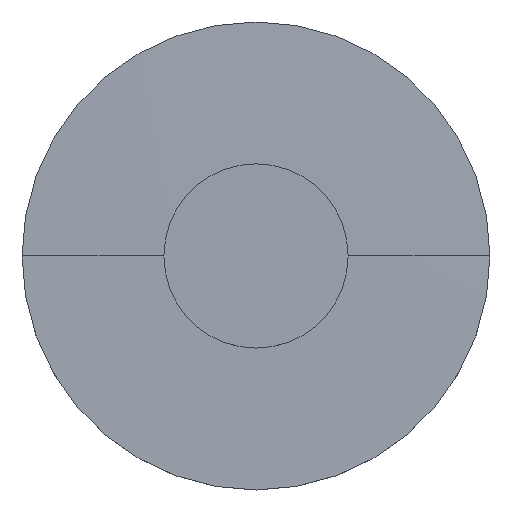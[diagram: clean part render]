
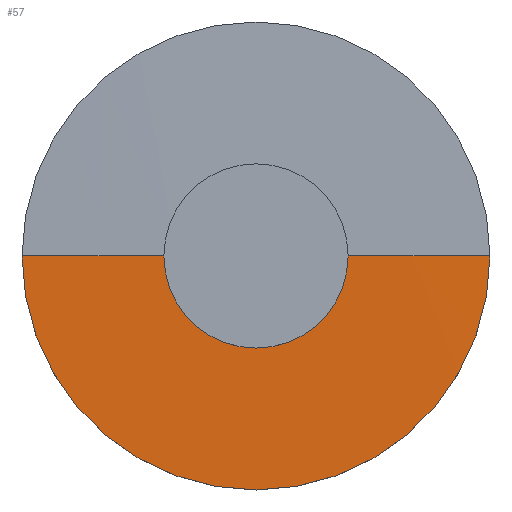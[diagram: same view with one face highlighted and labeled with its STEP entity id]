
A CAD part, top view. The second image highlights one B-rep face of the part: STEP entity #57.
In plain terms, the highlighted spherical face has radius 2000 mm.
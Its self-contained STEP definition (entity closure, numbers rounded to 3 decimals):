
#57=ADVANCED_FACE('',(#71),#72,.T.);
#71=FACE_OUTER_BOUND('',#91,.T.);
#72=SPHERICAL_SURFACE('',#92,2000.0);
#91=EDGE_LOOP('',(#124,#125,#126));
#92=AXIS2_PLACEMENT_3D('',#127,#128,#129);
#124=ORIENTED_EDGE('',*,*,#173,.T.);
#125=ORIENTED_EDGE('',*,*,#174,.T.);
#126=ORIENTED_EDGE('',*,*,#175,.T.);
#127=CARTESIAN_POINT('',(0.0,0.0,-1995.0));
#128=DIRECTION('',(0.0,0.0,1.0));
#129=DIRECTION('',(1.0,0.0,0.0));
#173=EDGE_CURVE('',#189,#194,#195,.T.);
#174=EDGE_CURVE('',#194,#191,#196,.T.);
#175=EDGE_CURVE('',#191,#189,#197,.T.);
#189=VERTEX_POINT('',#215);
#191=VERTEX_POINT('',#218);
#194=VERTEX_POINT('',#222);
#195=CIRCLE('',#223,2000.0);
#196=CIRCLE('',#224,2000.0);
#197=CIRCLE('',#225,25.4);
#215=CARTESIAN_POINT('',(25.4,0.,4.839));
#218=CARTESIAN_POINT('',(-25.4,0.,4.839));
#222=CARTESIAN_POINT('',(0.0,0.0,5.0));
#223=AXIS2_PLACEMENT_3D('',#253,#254,#255);
#224=AXIS2_PLACEMENT_3D('',#256,#257,#258);
#225=AXIS2_PLACEMENT_3D('',#259,#260,#261);
#253=CARTESIAN_POINT('',(0.0,0.0,-1995.0));
#254=DIRECTION('',(0.,-1.0,0.0));
#255=DIRECTION('',(0.0,0.0,1.0));
#256=CARTESIAN_POINT('',(0.0,0.0,-1995.0));
#257=DIRECTION('',(0.,-1.0,0.0));
#258=DIRECTION('',(0.0,0.0,1.0));
#259=CARTESIAN_POINT('',(0.0,0.0,4.839));
#260=DIRECTION('',(0.0,0.0,1.0));
#261=DIRECTION('',(1.0,0.0,0.0));
